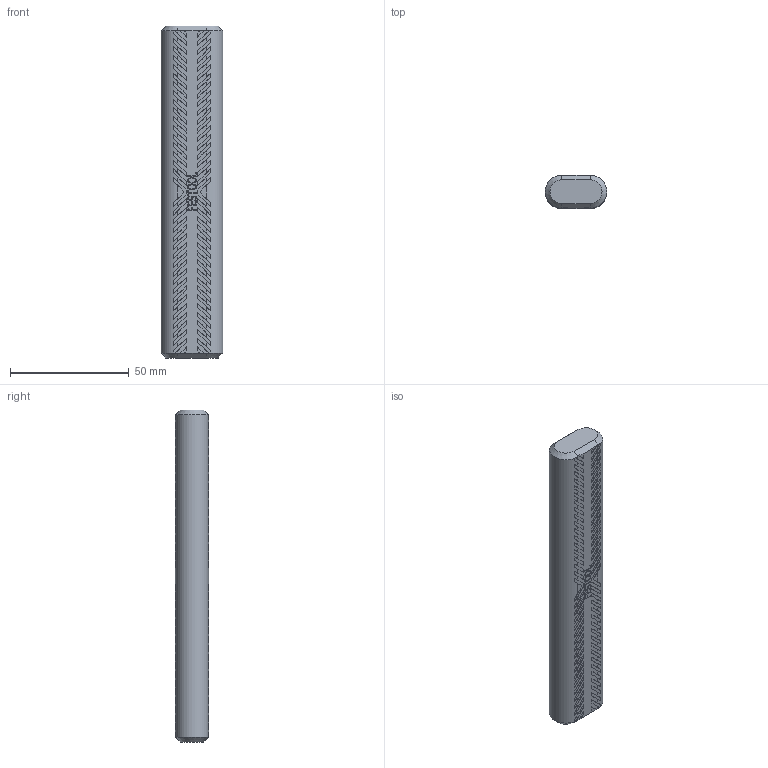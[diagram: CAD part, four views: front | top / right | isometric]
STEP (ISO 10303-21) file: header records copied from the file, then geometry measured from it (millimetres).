
FILE_DESCRIPTION(('Creo Elements/Direct Modeling STEP Export'),'2;1');
FILE_NAME('Domino_14x140.stp','2024-01-19T 8:04:26',(''),(''),'Creo Elements/Direct Modeling STEP processor for AP214 (Solid Model)','Creo Elements/Direct Modeling 20.5A 14-Oct-2022 (C) Parametric Technology GmbH','');
FILE_SCHEMA(('AUTOMOTIVE_DESIGN { 1 0 10303 214 1 1 1 1 }'));
Length unit declared in the file: millimetre
Products named in the file (1): 14x140_00479334
Bounding box: 26 x 14 x 140 mm (x, y, z)
Volume: 44573.8 mm3; surface area: 10480.5 mm2
Topology: 1 solids, 1 shells, 1165 faces, 3400 edges, 2264 vertices
Faces by surface type: plane 1151, cylinder 10, cone 4
Entity records: 36184 total; most frequent: ORIENTED_EDGE 6800, CARTESIAN_POINT 6558, DIRECTION 5384, EDGE_CURVE 3400, VECTOR 2788, LINE 2788, VERTEX_POINT 2264, AXIS2_PLACEMENT_3D 1298
